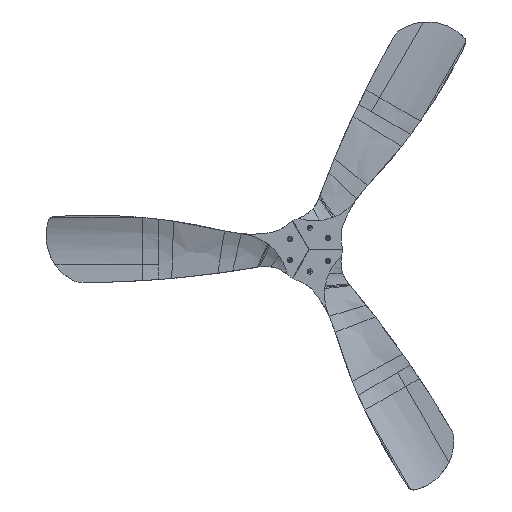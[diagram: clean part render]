
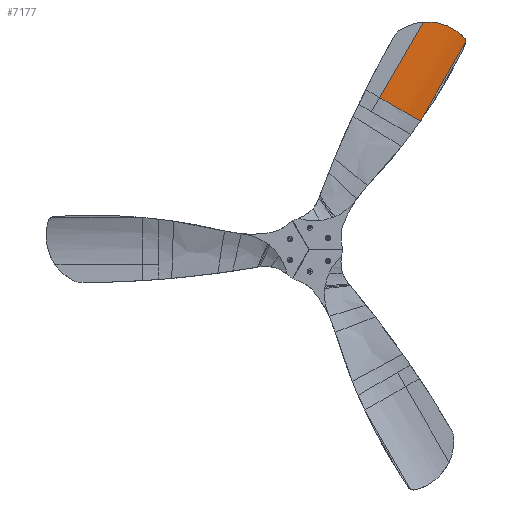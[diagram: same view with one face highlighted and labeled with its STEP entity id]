
A CAD part, top view. The second image highlights one B-rep face of the part: STEP entity #7177.
In plain terms, the highlighted cylindrical face has radius 264.109 mm (diameter 528.218 mm), a partial arc.
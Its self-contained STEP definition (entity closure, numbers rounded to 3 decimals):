
#368=LINE('',#13552,#720);
#369=LINE('',#13575,#721);
#720=VECTOR('',#8488,1.);
#721=VECTOR('',#8491,1.);
#1045=CYLINDRICAL_SURFACE('',#7626,264.109);
#1553=FACE_OUTER_BOUND('',#1984,.T.);
#1984=EDGE_LOOP('',(#5373,#5374,#5375,#5376,#5377));
#2450=B_SPLINE_CURVE_WITH_KNOTS('',3,(#12830,#12831,#12832,#12833,#12834,
#12835,#12836,#12837,#12838,#12839,#12840,#12841,#12842,#12843,#12844,#12845,
#12846,#12847,#12848),.UNSPECIFIED.,.F.,.F.,(4,1,1,1,1,1,1,1,1,1,1,1,1,
1,1,1,4),(0.,0.063,0.125,0.188,0.25,0.313,0.375,0.438,0.5,0.563,0.625,
0.688,0.75,0.813,0.875,0.938,1.),.UNSPECIFIED.);
#2487=B_SPLINE_CURVE_WITH_KNOTS('',3,(#13518,#13519,#13520,#13521,#13522,
#13523,#13524,#13525,#13526,#13527,#13528,#13529),.UNSPECIFIED.,.F.,.F.,
(4,2,2,2,2,4),(8.153,8.458,11.277,14.371,
17.466,18.957),.UNSPECIFIED.);
#2490=B_SPLINE_CURVE_WITH_KNOTS('',3,(#13555,#13556,#13557,#13558,#13559,
#13560,#13561,#13562,#13563,#13564,#13565,#13566,#13567,#13568,#13569,#13570,
#13571,#13572,#13573,#13574),.UNSPECIFIED.,.F.,.F.,(4,2,2,2,2,2,2,2,2,4),
(364.175,366.134,381.705,397.275,412.846,
428.417,443.988,459.559,475.129,478.605),
 .UNSPECIFIED.);
#3007=VERTEX_POINT('',#12793);
#3009=VERTEX_POINT('',#12829);
#3042=VERTEX_POINT('',#13504);
#3043=VERTEX_POINT('',#13516);
#3046=VERTEX_POINT('',#13554);
#3847=EDGE_CURVE('',#3009,#3007,#2450,.T.);
#3903=EDGE_CURVE('',#3042,#3043,#2487,.T.);
#3908=EDGE_CURVE('',#3007,#3042,#368,.T.);
#3909=EDGE_CURVE('',#3046,#3043,#2490,.T.);
#3910=EDGE_CURVE('',#3009,#3046,#369,.T.);
#5373=ORIENTED_EDGE('',*,*,#3908,.T.);
#5374=ORIENTED_EDGE('',*,*,#3903,.T.);
#5375=ORIENTED_EDGE('',*,*,#3909,.F.);
#5376=ORIENTED_EDGE('',*,*,#3910,.F.);
#5377=ORIENTED_EDGE('',*,*,#3847,.T.);
#7177=ADVANCED_FACE('',(#1553),#1045,.F.);
#7626=AXIS2_PLACEMENT_3D('',#13553,#8489,#8490);
#8488=DIRECTION('',(0.5,0.866,0.));
#8489=DIRECTION('center_axis',(0.5,0.866,0.));
#8490=DIRECTION('ref_axis',(-0.866,0.5,0.));
#8491=DIRECTION('',(0.5,0.866,0.));
#12793=CARTESIAN_POINT('',(278.749,322.416,334.796));
#12829=CARTESIAN_POINT('',(176.864,381.234,309.799));
#12830=CARTESIAN_POINT('Ctrl Pts',(176.867,381.238,309.799));
#12831=CARTESIAN_POINT('Ctrl Pts',(179.055,379.974,309.748));
#12832=CARTESIAN_POINT('Ctrl Pts',(183.434,377.446,309.718));
#12833=CARTESIAN_POINT('Ctrl Pts',(190.001,373.656,309.89));
#12834=CARTESIAN_POINT('Ctrl Pts',(196.56,369.869,310.28));
#12835=CARTESIAN_POINT('Ctrl Pts',(203.108,366.089,310.887));
#12836=CARTESIAN_POINT('Ctrl Pts',(209.637,362.32,311.711));
#12837=CARTESIAN_POINT('Ctrl Pts',(216.143,358.564,312.752));
#12838=CARTESIAN_POINT('Ctrl Pts',(222.621,354.824,314.007));
#12839=CARTESIAN_POINT('Ctrl Pts',(229.064,351.104,315.477));
#12840=CARTESIAN_POINT('Ctrl Pts',(235.469,347.406,317.159));
#12841=CARTESIAN_POINT('Ctrl Pts',(241.829,343.734,319.054));
#12842=CARTESIAN_POINT('Ctrl Pts',(248.139,340.091,321.158));
#12843=CARTESIAN_POINT('Ctrl Pts',(254.394,336.479,323.47));
#12844=CARTESIAN_POINT('Ctrl Pts',(260.589,332.902,325.99));
#12845=CARTESIAN_POINT('Ctrl Pts',(266.719,329.363,328.713));
#12846=CARTESIAN_POINT('Ctrl Pts',(272.779,325.864,331.638));
#12847=CARTESIAN_POINT('Ctrl Pts',(276.768,323.56,333.722));
#12848=CARTESIAN_POINT('Ctrl Pts',(278.75,322.416,334.796));
#13504=CARTESIAN_POINT('',(393.446,521.076,334.796));
#13516=CARTESIAN_POINT('',(389.469,530.691,331.092));
#13518=CARTESIAN_POINT('Ctrl Pts',(393.446,521.076,334.796));
#13519=CARTESIAN_POINT('Ctrl Pts',(393.442,521.18,334.77));
#13520=CARTESIAN_POINT('Ctrl Pts',(393.437,521.283,334.744));
#13521=CARTESIAN_POINT('Ctrl Pts',(393.375,522.339,334.471));
#13522=CARTESIAN_POINT('Ctrl Pts',(393.228,523.265,334.197));
#13523=CARTESIAN_POINT('Ctrl Pts',(392.774,525.087,333.597));
#13524=CARTESIAN_POINT('Ctrl Pts',(392.435,526.041,333.246));
#13525=CARTESIAN_POINT('Ctrl Pts',(391.563,527.873,332.497));
#13526=CARTESIAN_POINT('Ctrl Pts',(391.029,528.752,332.097));
#13527=CARTESIAN_POINT('Ctrl Pts',(390.117,529.956,331.492));
#13528=CARTESIAN_POINT('Ctrl Pts',(389.801,530.332,331.292));
#13529=CARTESIAN_POINT('Ctrl Pts',(389.469,530.691,331.092));
#13552=CARTESIAN_POINT('',(278.75,322.416,334.796));
#13553=CARTESIAN_POINT('Origin',(338.221,649.969,573.854));
#13554=CARTESIAN_POINT('',(286.32,570.817,309.799));
#13555=CARTESIAN_POINT('Ctrl Pts',(286.32,570.817,309.799));
#13556=CARTESIAN_POINT('Ctrl Pts',(286.972,570.871,309.789));
#13557=CARTESIAN_POINT('Ctrl Pts',(287.624,570.919,309.779));
#13558=CARTESIAN_POINT('Ctrl Pts',(293.454,571.31,309.71));
#13559=CARTESIAN_POINT('Ctrl Pts',(298.705,571.34,309.752));
#13560=CARTESIAN_POINT('Ctrl Pts',(309.222,570.736,310.101));
#13561=CARTESIAN_POINT('Ctrl Pts',(314.489,570.103,310.409));
#13562=CARTESIAN_POINT('Ctrl Pts',(324.91,568.175,311.335));
#13563=CARTESIAN_POINT('Ctrl Pts',(330.066,566.881,311.953));
#13564=CARTESIAN_POINT('Ctrl Pts',(340.148,563.666,313.523));
#13565=CARTESIAN_POINT('Ctrl Pts',(345.075,561.744,314.475));
#13566=CARTESIAN_POINT('Ctrl Pts',(354.59,557.335,316.71));
#13567=CARTESIAN_POINT('Ctrl Pts',(359.189,554.843,317.996));
#13568=CARTESIAN_POINT('Ctrl Pts',(367.977,549.362,320.881));
#13569=CARTESIAN_POINT('Ctrl Pts',(372.165,546.373,322.479));
#13570=CARTESIAN_POINT('Ctrl Pts',(380.058,539.996,325.941));
#13571=CARTESIAN_POINT('Ctrl Pts',(383.764,536.607,327.804));
#13572=CARTESIAN_POINT('Ctrl Pts',(387.973,532.288,330.203));
#13573=CARTESIAN_POINT('Ctrl Pts',(388.728,531.493,330.645));
#13574=CARTESIAN_POINT('Ctrl Pts',(389.469,530.691,331.092));
#13575=CARTESIAN_POINT('',(176.865,381.235,309.799));
